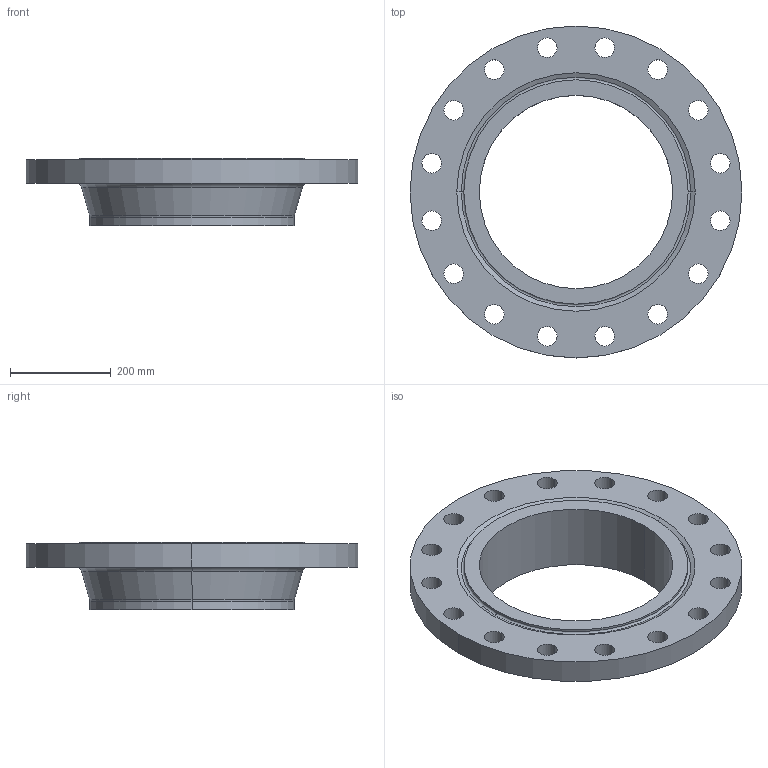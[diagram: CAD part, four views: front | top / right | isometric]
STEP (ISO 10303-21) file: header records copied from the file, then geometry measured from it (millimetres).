
FILE_DESCRIPTION (( 'STEP AP214' ), '1' );
FILE_NAME ('PN40 DN400 Type 11 - Type H Face.STEP', '2019-01-05T23:18:36', ( '' ), ( '' ), 'SwSTEP 2.0', 'SolidWorks 2019', '' );
FILE_SCHEMA (( 'AUTOMOTIVE_DESIGN' ));
Length unit declared in the file: millimetre
Products named in the file (1): PN40 DN400 Type 11 - Type H Face
Bounding box: 660 x 660 x 135 mm (x, y, z)
Volume: 11788671.4 mm3; surface area: 864617.6 mm2
Topology: 1 solids, 1 shells, 54 faces, 140 edges, 90 vertices
Faces by surface type: cylinder 40, torus 6, cone 4, plane 4
Entity records: 1802 total; most frequent: DIRECTION 346, CARTESIAN_POINT 285, ORIENTED_EDGE 280, AXIS2_PLACEMENT_3D 151, EDGE_CURVE 140, CIRCLE 96, EDGE_LOOP 90, VERTEX_POINT 90
